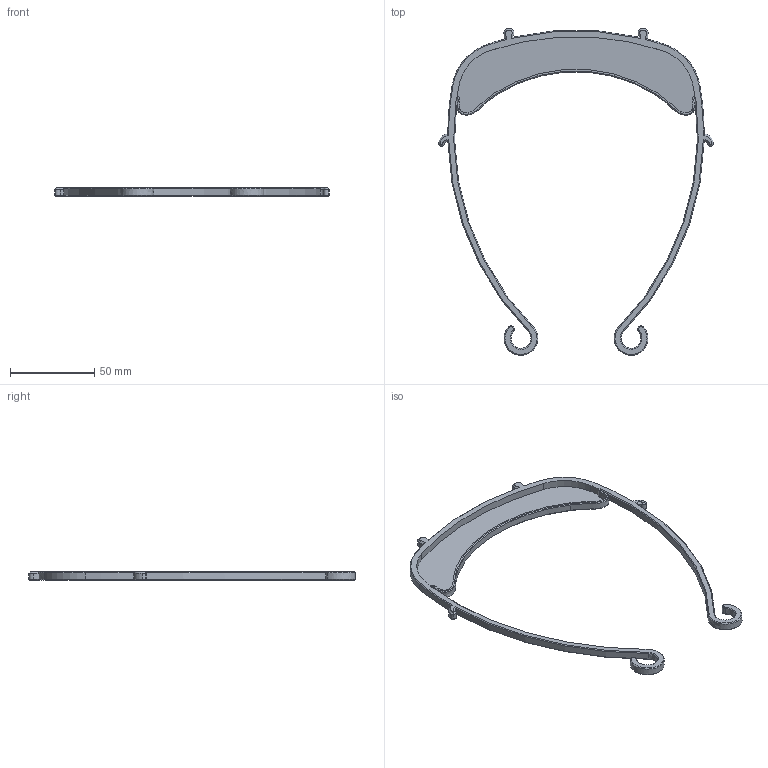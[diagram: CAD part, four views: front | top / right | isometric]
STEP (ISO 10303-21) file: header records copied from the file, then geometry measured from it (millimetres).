
FILE_DESCRIPTION((''),'2;1');
FILE_NAME('VERKSTAN_A4_EC2','2020-04-07T20:27:42',('Jason'),(''),'CREO PARAMETRIC BY PTC INC, 2019224','CREO PARAMETRIC BY PTC INC, 2019224','');
FILE_SCHEMA(('CONFIG_CONTROL_DESIGN'));
Length unit declared in the file: millimetre
Products named in the file (1): VERKSTAN_A4_EC2
Bounding box: 163.03 x 193.79 x 5 mm (x, y, z)
Volume: 14613.8 mm3; surface area: 18243.7 mm2
Topology: 1 solids, 1 shells, 145 faces, 348 edges, 206 vertices
Faces by surface type: cone 56, cylinder 36, plane 33, bspline 12, extrusion 8
Entity records: 6454 total; most frequent: CARTESIAN_POINT 3149, ORIENTED_EDGE 696, DIRECTION 660, EDGE_CURVE 348, AXIS2_PLACEMENT_3D 249, VERTEX_POINT 206, VECTOR 162, LINE 154
